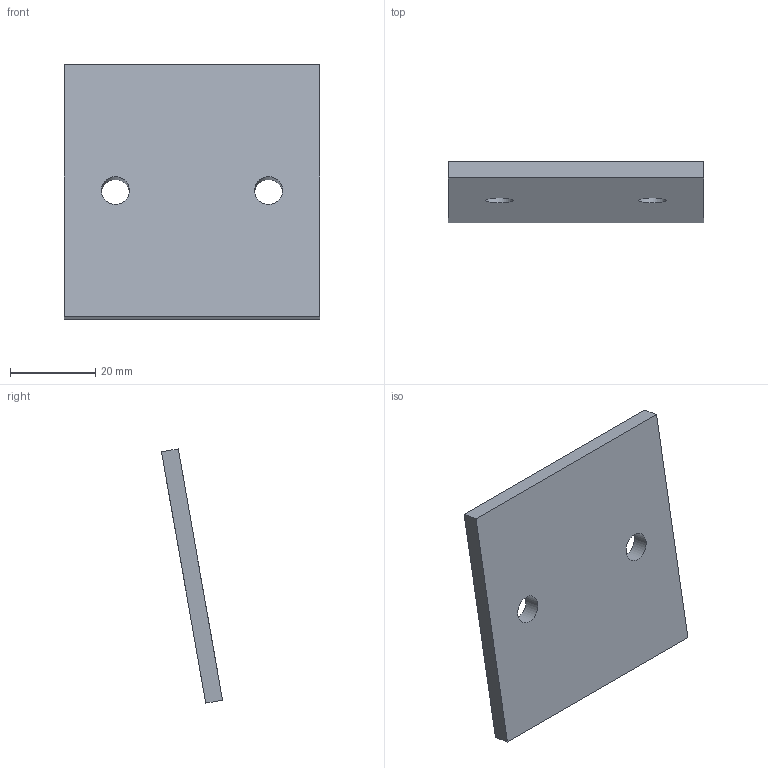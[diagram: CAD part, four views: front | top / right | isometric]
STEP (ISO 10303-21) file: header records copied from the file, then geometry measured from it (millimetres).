
FILE_DESCRIPTION(('golf model'),'2;1');
FILE_NAME('golf','',(''),(''),'golf_step_io','golf','');
FILE_SCHEMA(('AUTOMOTIVE_DESIGN { 1 0 10303 214 1 1 1 1 }'));
Length unit declared in the file: millimetre
Products named in the file (2): ASSEMBLY; gantry_drives.y_chain_fix
Assembly tree (1 placements, depth 2):
  ASSEMBLY
    gantry_drives.y_chain_fix
Bounding box: 60 x 14.36 x 59.78 mm (x, y, z)
Volume: 14126.3 mm3; surface area: 8189 mm2
Topology: 1 solids, 1 shells, 8 faces, 18 edges, 12 vertices
Faces by surface type: plane 6, cylinder 2
Full cylindrical faces by diameter (mm): 6.6 x2
Entity records: 258 total; most frequent: DIRECTION 40, CARTESIAN_POINT 38, ORIENTED_EDGE 32, EDGE_CURVE 16, AXIS2_PLACEMENT_3D 14, EDGE_LOOP 14, VERTEX_POINT 12, VECTOR 12
